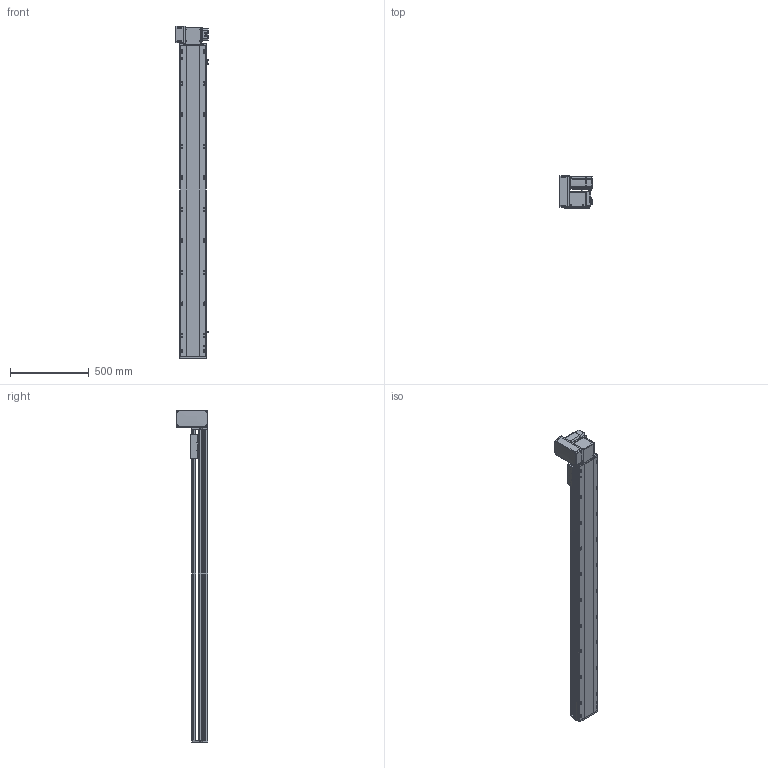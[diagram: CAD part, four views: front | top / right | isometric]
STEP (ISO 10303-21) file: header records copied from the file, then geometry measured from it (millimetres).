
FILE_DESCRIPTION (( 'STEP AP214' ), '1' );
FILE_NAME ('RTB17S-XX-1700-LW-M75-C4.STEP', '2025-12-12T01:08:41', ( '' ), ( '' ), 'SwSTEP 2.0', 'SolidWorks 2018', '' );
FILE_SCHEMA (( 'AUTOMOTIVE_DESIGN' ));
Length unit declared in the file: millimetre
Products named in the file (15): RTB17S-L-007奻裔^RTB17S-XX-XX-LW-M75-C4; RTB22S-GY-017P^RTB17S-LW-々湍釱蚾饜-750W_RTB17S-XX-XX-LW-M75-C4; RTB22S-GY-005P^RTB17S-LW-々湍釱蚾饜-750W_RTB17S-XX-XX-LW-M75-C4; 750W萇儂^RTB17S-XX-XX-LW-M75-C4; EE672^RTB17S-XX-XX-LW-M75-C4; RTB17S-L-001-耜醱啣^RTB17S-XX-XX-LW-M75-C4; RTB17S-XX-1700-LW-M75-C4; RTB17S-L-004-賑釱^RTB17S-賑釱_RTB17S-XX-XX-LW-M75-C4; RTB17S-L-014-T20-P75--々湍釱^RTB17S-LW-々湍釱蚾饜-750W_RTB17S-XX-XX-LW-M75-C4; RTH13-BL-012覜茼え俋离^RTB17S-賑釱_RTB17S-XX-XX-LW-M75-C4; RTB22S-GY-018P^RTB17S-LW-々湍釱蚾饜-750W_RTB17S-XX-XX-LW-M75-C4; RTB17S-LW-々湍釱蚾饜-750W^RTB17S-XX-XX-LW-M75-C4; RTB17S-賑釱^RTB17S-XX-XX-LW-M75-C4; RTB22S-GY-008-M75--萇儂啣^RTB17S-LW-々湍釱蚾饜-750W_RTB17S-XX-XX-LW-M75-C4; RTB17-R-011菁釱^RTB17S-XX-XX-LW-M75-C4
Assembly tree (17 placements, depth 3):
  RTB17S-XX-1700-LW-M75-C4
    RTB17-R-011菁釱^RTB17S-XX-XX-LW-M75-C4
    EE672^RTB17S-XX-XX-LW-M75-C4  x3
    RTB17S-L-001-耜醱啣^RTB17S-XX-XX-LW-M75-C4
    RTB17S-賑釱^RTB17S-XX-XX-LW-M75-C4
      RTB17S-L-004-賑釱^RTB17S-賑釱_RTB17S-XX-XX-LW-M75-C4
      RTH13-BL-012覜茼え俋离^RTB17S-賑釱_RTB17S-XX-XX-LW-M75-C4
    RTB17S-L-007奻裔^RTB17S-XX-XX-LW-M75-C4
    750W萇儂^RTB17S-XX-XX-LW-M75-C4
    RTB17S-LW-々湍釱蚾饜-750W^RTB17S-XX-XX-LW-M75-C4
      RTB17S-L-014-T20-P75--々湍釱^RTB17S-LW-々湍釱蚾饜-750W_RTB17S-XX-XX-LW-M75-C4
      RTB22S-GY-005P^RTB17S-LW-々湍釱蚾饜-750W_RTB17S-XX-XX-LW-M75-C4
      RTB22S-GY-017P^RTB17S-LW-々湍釱蚾饜-750W_RTB17S-XX-XX-LW-M75-C4  x2
      RTB22S-GY-008-M75--萇儂啣^RTB17S-LW-々湍釱蚾饜-750W_RTB17S-XX-XX-LW-M75-C4
      RTB22S-GY-018P^RTB17S-LW-々湍釱蚾饜-750W_RTB17S-XX-XX-LW-M75-C4
Bounding box: 210.4 x 201.5 x 2107.5 mm (x, y, z)
Volume: 16574329.2 mm3; surface area: 2931648.8 mm2
Topology: 17 solids, 17 shells, 2153 faces, 5998 edges, 3878 vertices
Faces by surface type: plane 978, cylinder 759, bspline 294, cone 110, sphere 8, torus 4
Entity records: 61174 total; most frequent: CARTESIAN_POINT 18062, ORIENTED_EDGE 8840, DIRECTION 8222, EDGE_CURVE 4420, AXIS2_PLACEMENT_3D 2898, VERTEX_POINT 2882, LINE 2426, VECTOR 2426
